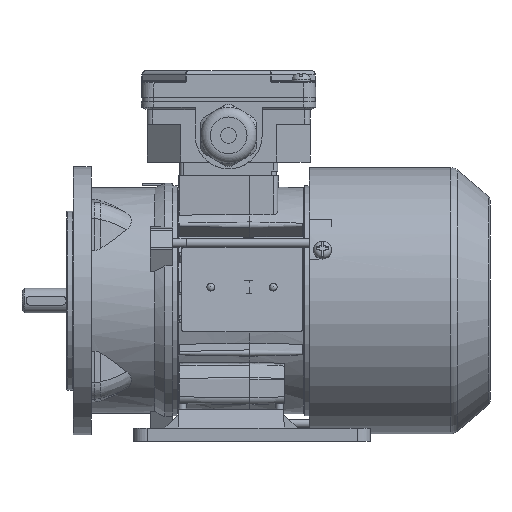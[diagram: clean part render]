
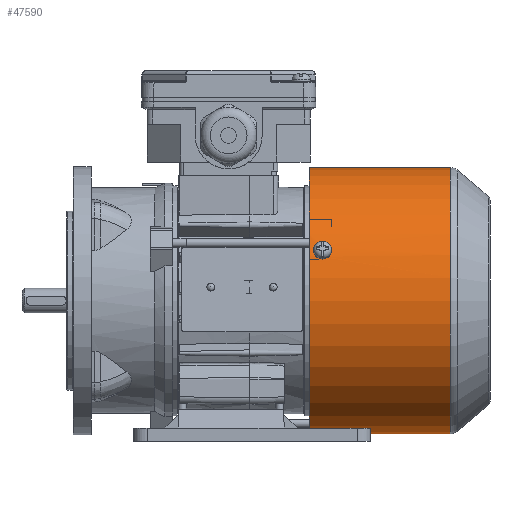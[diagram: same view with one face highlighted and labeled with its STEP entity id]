
A CAD part, front view. The second image highlights one B-rep face of the part: STEP entity #47590.
In plain terms, the highlighted cylindrical face has radius 59.6 mm (diameter 119.2 mm), a full revolution.
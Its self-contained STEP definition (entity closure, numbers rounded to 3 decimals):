
#5843=CYLINDRICAL_SURFACE('',#49736,59.6);
#7579=B_SPLINE_CURVE_WITH_KNOTS('',3,(#66416,#66417,#66418,#66419,#66420,
#66421,#66422),.UNSPECIFIED.,.F.,.F.,(4,1,1,1,4),(0.,
0.002,0.004,0.006,0.007),
 .UNSPECIFIED.);
#7580=B_SPLINE_CURVE_WITH_KNOTS('',3,(#66429,#66430,#66431,#66432,#66433,
#66434,#66435),.UNSPECIFIED.,.F.,.F.,(4,1,1,1,4),(0.,0.002,
0.004,0.006,0.007),
 .UNSPECIFIED.);
#7581=B_SPLINE_CURVE_WITH_KNOTS('',3,(#66464,#66465,#66466,#66467,#66468,
#66469,#66470),.UNSPECIFIED.,.F.,.F.,(4,1,1,1,4),(0.,
0.002,0.004,0.006,0.008),
 .UNSPECIFIED.);
#7582=B_SPLINE_CURVE_WITH_KNOTS('',3,(#66475,#66476,#66477,#66478,#66479,
#66480,#66481),.UNSPECIFIED.,.F.,.F.,(4,1,1,1,4),(0.,0.002,
0.004,0.006,0.008),
 .UNSPECIFIED.);
#7583=B_SPLINE_CURVE_WITH_KNOTS('',3,(#66484,#66485,#66486,#66487,#66488,
#66489,#66490),.UNSPECIFIED.,.F.,.F.,(4,1,1,1,4),(0.,0.002,
0.004,0.006,0.008),
 .UNSPECIFIED.);
#7584=B_SPLINE_CURVE_WITH_KNOTS('',3,(#66495,#66496,#66497,#66498,#66499,
#66500,#66501),.UNSPECIFIED.,.F.,.F.,(4,1,1,1,4),(0.,0.002,
0.004,0.006,0.008),
 .UNSPECIFIED.);
#9958=ORIENTED_EDGE('',*,*,#19628,.T.);
#9959=ORIENTED_EDGE('',*,*,#19629,.T.);
#9960=ORIENTED_EDGE('',*,*,#19630,.T.);
#9961=ORIENTED_EDGE('',*,*,#19631,.T.);
#9962=ORIENTED_EDGE('',*,*,#19611,.F.);
#9963=ORIENTED_EDGE('',*,*,#19614,.F.);
#9964=ORIENTED_EDGE('',*,*,#19632,.T.);
#9965=ORIENTED_EDGE('',*,*,#19633,.T.);
#9966=ORIENTED_EDGE('',*,*,#19634,.T.);
#9967=ORIENTED_EDGE('',*,*,#19635,.T.);
#9968=ORIENTED_EDGE('',*,*,#19636,.F.);
#9969=ORIENTED_EDGE('',*,*,#19637,.T.);
#19611=EDGE_CURVE('',#24567,#24568,#7579,.T.);
#19614=EDGE_CURVE('',#24568,#24567,#7580,.T.);
#19628=EDGE_CURVE('',#24583,#24584,#7581,.T.);
#19629=EDGE_CURVE('',#24584,#24585,#27601,.F.);
#19630=EDGE_CURVE('',#24585,#24586,#7582,.T.);
#19631=EDGE_CURVE('',#24586,#24583,#27602,.F.);
#19632=EDGE_CURVE('',#24587,#24588,#7583,.T.);
#19633=EDGE_CURVE('',#24588,#24589,#27603,.F.);
#19634=EDGE_CURVE('',#24589,#24590,#7584,.T.);
#19635=EDGE_CURVE('',#24590,#24587,#27604,.F.);
#19636=EDGE_CURVE('',#24591,#24591,#27605,.T.);
#19637=EDGE_CURVE('',#24592,#24592,#27606,.F.);
#24567=VERTEX_POINT('',#66414);
#24568=VERTEX_POINT('',#66415);
#24583=VERTEX_POINT('',#66471);
#24584=VERTEX_POINT('',#66472);
#24585=VERTEX_POINT('',#66474);
#24586=VERTEX_POINT('',#66482);
#24587=VERTEX_POINT('',#66491);
#24588=VERTEX_POINT('',#66492);
#24589=VERTEX_POINT('',#66494);
#24590=VERTEX_POINT('',#66502);
#24591=VERTEX_POINT('',#66505);
#24592=VERTEX_POINT('',#66507);
#27601=CIRCLE('',#49737,59.6);
#27602=CIRCLE('',#49738,59.6);
#27603=CIRCLE('',#49739,59.6);
#27604=CIRCLE('',#49740,59.6);
#27605=CIRCLE('',#49741,59.6);
#27606=CIRCLE('',#49742,59.6);
#29165=EDGE_LOOP('',(#9958,#9959,#9960,#9961));
#29166=EDGE_LOOP('',(#9962,#9963));
#29167=EDGE_LOOP('',(#9964,#9965,#9966,#9967));
#29168=EDGE_LOOP('',(#9968));
#29169=EDGE_LOOP('',(#9969));
#31492=FACE_BOUND('',#29165,.T.);
#31493=FACE_BOUND('',#29166,.T.);
#31494=FACE_BOUND('',#29167,.T.);
#31495=FACE_BOUND('',#29168,.T.);
#31496=FACE_BOUND('',#29169,.T.);
#47590=ADVANCED_FACE('',(#31492,#31493,#31494,#31495,#31496),#5843,.T.);
#49736=AXIS2_PLACEMENT_3D('',#66463,#54182,#54183);
#49737=AXIS2_PLACEMENT_3D('',#66473,#54184,#54185);
#49738=AXIS2_PLACEMENT_3D('',#66483,#54186,#54187);
#49739=AXIS2_PLACEMENT_3D('',#66493,#54188,#54189);
#49740=AXIS2_PLACEMENT_3D('',#66503,#54190,#54191);
#49741=AXIS2_PLACEMENT_3D('',#66504,#54192,#54193);
#49742=AXIS2_PLACEMENT_3D('',#66506,#54194,#54195);
#54182=DIRECTION('',(-1.,0.,0.));
#54183=DIRECTION('',(0.,0.,1.));
#54184=DIRECTION('',(-1.,0.,0.));
#54185=DIRECTION('',(0.,0.866,-0.5));
#54186=DIRECTION('',(1.,0.,0.));
#54187=DIRECTION('',(0.,-0.866,0.5));
#54188=DIRECTION('',(-1.,0.,0.));
#54189=DIRECTION('',(0.,0.,1.));
#54190=DIRECTION('',(1.,0.,0.));
#54191=DIRECTION('',(0.,0.,-1.));
#54192=DIRECTION('',(-1.,0.,0.));
#54193=DIRECTION('',(0.,0.,1.));
#54194=DIRECTION('',(1.,0.,0.));
#54195=DIRECTION('',(0.,0.,-1.));
#66414=CARTESIAN_POINT('',(35.,8.295,-59.02));
#66415=CARTESIAN_POINT('',(30.,8.295,-59.02));
#66416=CARTESIAN_POINT('',(35.,8.295,-59.02));
#66417=CARTESIAN_POINT('',(34.937,7.681,-59.106));
#66418=CARTESIAN_POINT('',(34.356,6.499,-59.249));
#66419=CARTESIAN_POINT('',(32.502,5.777,-59.318));
#66420=CARTESIAN_POINT('',(30.649,6.493,-59.25));
#66421=CARTESIAN_POINT('',(30.063,7.681,-59.106));
#66422=CARTESIAN_POINT('',(30.,8.295,-59.02));
#66429=CARTESIAN_POINT('',(30.,8.295,-59.02));
#66430=CARTESIAN_POINT('',(30.063,8.908,-58.934));
#66431=CARTESIAN_POINT('',(30.644,10.084,-58.746));
#66432=CARTESIAN_POINT('',(32.498,10.797,-58.613));
#66433=CARTESIAN_POINT('',(34.351,10.09,-58.745));
#66434=CARTESIAN_POINT('',(34.937,8.908,-58.934));
#66435=CARTESIAN_POINT('',(35.,8.295,-59.02));
#66463=CARTESIAN_POINT('',(-33.5,0.,0.));
#66464=CARTESIAN_POINT('',(30.,47.484,36.02));
#66465=CARTESIAN_POINT('',(30.,47.883,35.493));
#66466=CARTESIAN_POINT('',(30.542,48.645,34.446));
#66467=CARTESIAN_POINT('',(32.498,49.108,33.771));
#66468=CARTESIAN_POINT('',(34.458,48.646,34.444));
#66469=CARTESIAN_POINT('',(35.,47.883,35.493));
#66470=CARTESIAN_POINT('',(35.,47.484,36.02));
#66471=CARTESIAN_POINT('',(30.,47.484,36.02));
#66472=CARTESIAN_POINT('',(35.,47.484,36.02));
#66473=CARTESIAN_POINT('',(35.,0.,0.));
#66474=CARTESIAN_POINT('',(35.,46.437,37.36));
#66475=CARTESIAN_POINT('',(35.,46.437,37.36));
#66476=CARTESIAN_POINT('',(35.,46.023,37.874));
#66477=CARTESIAN_POINT('',(34.458,45.191,38.867));
#66478=CARTESIAN_POINT('',(32.502,44.648,39.479));
#66479=CARTESIAN_POINT('',(30.542,45.19,38.869));
#66480=CARTESIAN_POINT('',(30.,46.023,37.874));
#66481=CARTESIAN_POINT('',(30.,46.437,37.36));
#66482=CARTESIAN_POINT('',(30.,46.437,37.36));
#66483=CARTESIAN_POINT('',(30.,0.,0.));
#66484=CARTESIAN_POINT('',(30.,-54.936,23.112));
#66485=CARTESIAN_POINT('',(30.,-54.68,23.721));
#66486=CARTESIAN_POINT('',(30.542,-54.154,24.905));
#66487=CARTESIAN_POINT('',(32.498,-53.8,25.643));
#66488=CARTESIAN_POINT('',(34.458,-54.153,24.907));
#66489=CARTESIAN_POINT('',(35.,-54.68,23.721));
#66490=CARTESIAN_POINT('',(35.,-54.936,23.112));
#66491=CARTESIAN_POINT('',(30.,-54.936,23.112));
#66492=CARTESIAN_POINT('',(35.,-54.936,23.112));
#66493=CARTESIAN_POINT('',(35.,0.,0.));
#66494=CARTESIAN_POINT('',(35.,-55.573,21.536));
#66495=CARTESIAN_POINT('',(35.,-55.573,21.536));
#66496=CARTESIAN_POINT('',(35.,-55.812,20.92));
#66497=CARTESIAN_POINT('',(34.458,-56.255,19.703));
#66498=CARTESIAN_POINT('',(32.502,-56.514,18.927));
#66499=CARTESIAN_POINT('',(30.542,-56.256,19.701));
#66500=CARTESIAN_POINT('',(30.,-55.812,20.92));
#66501=CARTESIAN_POINT('',(30.,-55.573,21.536));
#66502=CARTESIAN_POINT('',(30.,-55.573,21.536));
#66503=CARTESIAN_POINT('',(30.,0.,0.));
#66504=CARTESIAN_POINT('',(26.5,0.,0.));
#66505=CARTESIAN_POINT('',(26.5,0.,59.6));
#66506=CARTESIAN_POINT('',(89.809,0.,0.));
#66507=CARTESIAN_POINT('',(89.809,0.,-59.6));
